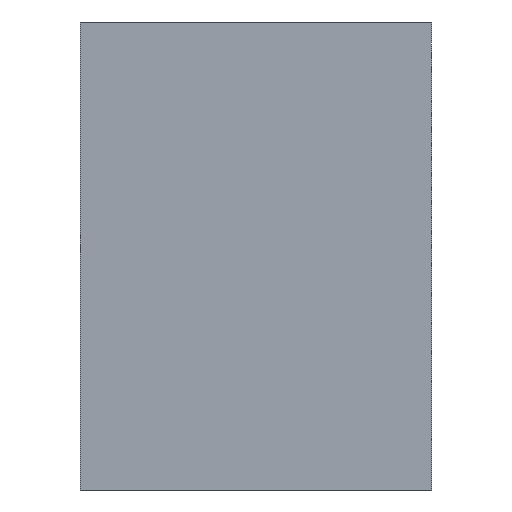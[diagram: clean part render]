
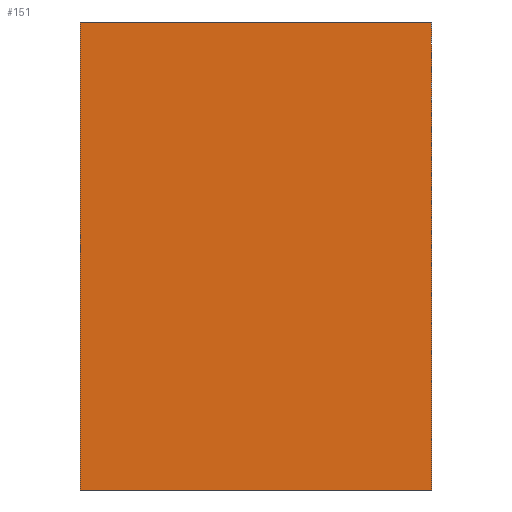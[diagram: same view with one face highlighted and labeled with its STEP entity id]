
A CAD part, front view. The second image highlights one B-rep face of the part: STEP entity #151.
In plain terms, the highlighted planar face has unit normal (0, -1, 0).
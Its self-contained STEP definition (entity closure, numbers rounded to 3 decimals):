
#107=PLANE('',#626);
#121=FACE_OUTER_BOUND('',#299,.T.);
#123=LINE('',#880,#135);
#124=LINE('',#883,#136);
#125=LINE('',#885,#137);
#126=LINE('',#887,#138);
#135=VECTOR('',#717,1.);
#136=VECTOR('',#718,1.);
#137=VECTOR('',#719,1.);
#138=VECTOR('',#720,1.);
#151=ADVANCED_FACE('',(#121),#107,.F.);
#299=EDGE_LOOP('',(#381,#382,#383,#384));
#381=ORIENTED_EDGE('',*,*,#533,.T.);
#382=ORIENTED_EDGE('',*,*,#534,.F.);
#383=ORIENTED_EDGE('',*,*,#535,.F.);
#384=ORIENTED_EDGE('',*,*,#536,.T.);
#481=VERTEX_POINT('',#881);
#482=VERTEX_POINT('',#882);
#483=VERTEX_POINT('',#884);
#484=VERTEX_POINT('',#886);
#533=EDGE_CURVE('',#481,#482,#123,.T.);
#534=EDGE_CURVE('',#483,#482,#124,.T.);
#535=EDGE_CURVE('',#484,#483,#125,.T.);
#536=EDGE_CURVE('',#484,#481,#126,.T.);
#626=AXIS2_PLACEMENT_3D('',#888,#721,#722);
#717=DIRECTION('',(0.,0.,1.));
#718=DIRECTION('',(1.,0.,0.));
#719=DIRECTION('',(0.,0.,1.));
#720=DIRECTION('',(1.,0.,0.));
#721=DIRECTION('',(0.,1.,0.));
#722=DIRECTION('',(0.,0.,1.));
#880=CARTESIAN_POINT('',(0.,-65.,-56.));
#881=CARTESIAN_POINT('',(0.,-65.,-56.));
#882=CARTESIAN_POINT('',(0.,-65.,56.));
#883=CARTESIAN_POINT('',(-84.,-65.,56.));
#884=CARTESIAN_POINT('',(-84.,-65.,56.));
#885=CARTESIAN_POINT('',(-84.,-65.,-56.));
#886=CARTESIAN_POINT('',(-84.,-65.,-56.));
#887=CARTESIAN_POINT('',(-84.,-65.,-56.));
#888=CARTESIAN_POINT('',(-84.,-65.,-56.));
